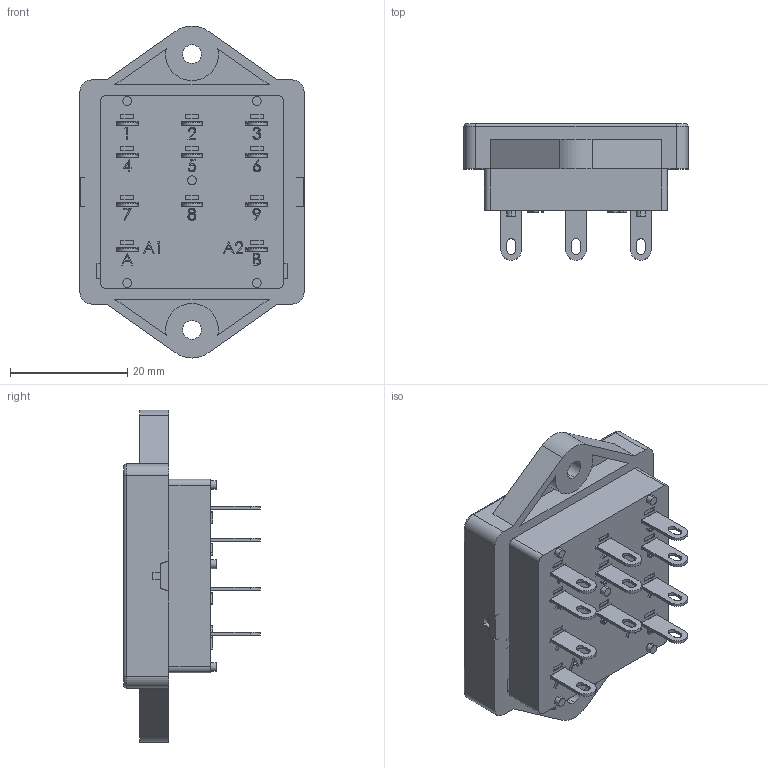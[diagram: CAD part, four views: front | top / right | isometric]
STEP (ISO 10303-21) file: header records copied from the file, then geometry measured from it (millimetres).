
FILE_DESCRIPTION (( 'STEP AP214' ), '1' );
FILE_NAME ('S5-L.STEP', '2015-04-21T13:33:11', ( '' ), ( '' ), 'SwSTEP 2.0', 'SolidWorks 2015', '' );
FILE_SCHEMA (( 'AUTOMOTIVE_DESIGN' ));
Length unit declared in the file: millimetre
Products named in the file (1): S5-L
Bounding box: 38.2 x 23.3 x 56.6 mm (x, y, z)
Volume: 14504.5 mm3; surface area: 9081.4 mm2
Topology: 1 solids, 3 shells, 957 faces, 2486 edges, 1650 vertices
Faces by surface type: plane 703, bspline 185, cylinder 65, torus 4
Entity records: 38878 total; most frequent: CARTESIAN_POINT 16447, ORIENTED_EDGE 4972, DIRECTION 3796, EDGE_CURVE 2486, VECTOR 1982, LINE 1982, VERTEX_POINT 1650, EDGE_LOOP 1098
